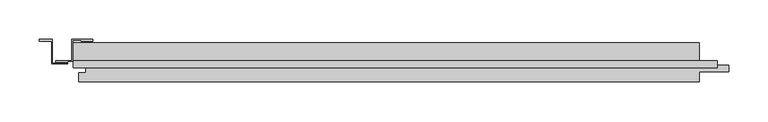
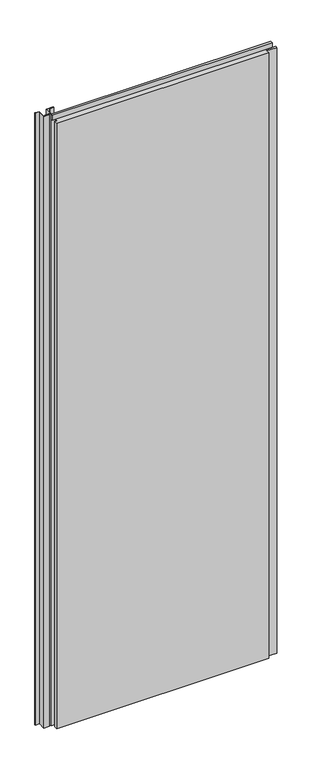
"""IFC4 building model written with IfcOpenShell, lengths in millimetres: plate geometry, Trimo_Qbiss Screen_Normal Panel-VERTICAL : HR - B."""

import ifcopenshell
import ifcopenshell.guid

model = None  # the IFC model being written
_history = None  # IfcOwnerHistory: only IFC2X3 demands one
_inside = {}  # id of a spatial element -> (the spatial element, [elements in it])
_under = {}  # id of a project, library or spatial element -> (it, [spatial elements below it])
_declared = {}  # id of a project -> (the project, [libraries it declares])
_typed = {}  # id of a type object -> (the type object, [elements of that type])
_made_of = {}  # id of a material, layer set ... -> (it, [elements and type objects made of it])


def new_model(schema):
    """Start an empty IFC model of exactly this schema.

    Asked for "IFC4X3", IfcOpenShell would pick the latest addendum, in which some entities
    have other attributes; the version numbers below select the first issue.
    IFC2X3 requires an IfcOwnerHistory on every rooted entity: one is made here for all.
    """
    global model, _history
    if schema == "IFC4X3":
        model = ifcopenshell.file(schema_version=(4, 3, 0, 0))
    else:
        model = ifcopenshell.file(schema=schema)
    _inside.clear()
    _under.clear()
    _declared.clear()
    _typed.clear()
    _made_of.clear()
    _history = None
    if model.schema == "IFC2X3":
        org = make("IfcOrganization", Name="unknown")
        user = make(
            "IfcPersonAndOrganization",
            ThePerson=make("IfcPerson", FamilyName="unknown"),
            TheOrganization=org,
        )
        app = make(
            "IfcApplication",
            ApplicationDeveloper=org,
            Version="unknown",
            ApplicationFullName="unknown",
            ApplicationIdentifier="unknown",
        )
        _history = make(
            "IfcOwnerHistory",
            OwningUser=user,
            OwningApplication=app,
            ChangeAction="ADDED",
            CreationDate=0,
        )
    return model


def make(cls, **values):
    """One entity of the class cls with the attributes given. An attribute that is None is left unset."""
    return model.create_entity(
        cls, **{name: value for name, value in values.items() if value is not None}
    )


def rooted(cls, **values):
    """An entity with a GlobalId (a new one), such as an element, a storey or a relation."""
    return make(cls, GlobalId=ifcopenshell.guid.new(), OwnerHistory=_history, **values)


def si_unit(unit_type, name, prefix=None):
    """IfcSIUnit, for example si_unit("LENGTHUNIT", "METRE", prefix="MILLI")."""
    return make("IfcSIUnit", UnitType=unit_type, Prefix=prefix, Name=name)


def assignment(units):
    """IfcUnitAssignment: the units of a project."""
    return None if units is None else make("IfcUnitAssignment", Units=units)


def point(xyz):
    """IfcCartesianPoint."""
    return None if xyz is None else make("IfcCartesianPoint", Coordinates=xyz)


def direction(xyz):
    """IfcDirection."""
    return None if xyz is None else make("IfcDirection", DirectionRatios=xyz)


def frame(location, z_axis=None, x_axis=None):
    """IfcAxis2Placement3D, a coordinate frame: its origin and axes. An axis left out is left unset."""
    return make(
        "IfcAxis2Placement3D",
        Location=point(location),
        Axis=direction(z_axis),
        RefDirection=direction(x_axis),
    )


def origin():
    """The frame at (0, 0, 0) with its axes left unset."""
    return frame((0.0, 0.0, 0.0))


def place(relative_to, where):
    """IfcLocalPlacement: puts the frame where relative to a parent placement (None: the world)."""
    return make(
        "IfcLocalPlacement", PlacementRelTo=relative_to, RelativePlacement=where
    )


def context(
    kind, dimensions, precision=None, world=None, true_north=None, identifier=None
):
    """IfcGeometricRepresentationContext, for example the 3D "Model" context."""
    return make(
        "IfcGeometricRepresentationContext",
        ContextIdentifier=identifier,
        ContextType=kind,
        CoordinateSpaceDimension=dimensions,
        Precision=precision,
        WorldCoordinateSystem=world,
        TrueNorth=true_north,
    )


def project(units=None, contexts=None):
    """IfcProject with its units and contexts."""
    return rooted(
        "IfcProject",
        Name="project",
        RepresentationContexts=contexts,
        UnitsInContext=assignment(units),
    )


def spatial(cls, under=None, at=None, **own):
    """A site, building, storey or space (cls), placed at a placement, below another one or the project."""
    s = rooted(cls, ObjectPlacement=at, **own)
    if under is not None:
        _under.setdefault(under.id(), (under, []))[1].append(s)
    return s


def polyline(points):
    """IfcPolyline through the points."""
    return make("IfcPolyline", Points=[point(p) for p in points])


def outline(outer, holes=None, kind="AREA"):
    """IfcArbitraryClosedProfileDef: a profile drawn as a closed curve; with holes, ...WithVoids."""
    if holes is None:
        return make("IfcArbitraryClosedProfileDef", ProfileType=kind, OuterCurve=outer)
    return make(
        "IfcArbitraryProfileDefWithVoids",
        ProfileType=kind,
        OuterCurve=outer,
        InnerCurves=holes,
    )


def extrude(swept, where, along, depth):
    """IfcExtrudedAreaSolid: the profile swept, set in the frame where, extruded along a direction by depth."""
    return make(
        "IfcExtrudedAreaSolid",
        SweptArea=swept,
        Position=where,
        ExtrudedDirection=direction(along),
        Depth=depth,
    )


def shape(context_of_items, identifier, shape_type, items):
    """IfcShapeRepresentation: the items that make up one representation, for example the "Body"."""
    return make(
        "IfcShapeRepresentation",
        ContextOfItems=context_of_items,
        RepresentationIdentifier=identifier,
        RepresentationType=shape_type,
        Items=items,
    )


def source(mapping_origin, context_of_items, identifier, shape_type, items):
    """IfcRepresentationMap: a shape defined once, which mapped items show again and again."""
    return make(
        "IfcRepresentationMap",
        MappingOrigin=mapping_origin,
        MappedRepresentation=shape(context_of_items, identifier, shape_type, items),
    )


def transform(
    local_origin,
    x_axis=None,
    y_axis=None,
    z_axis=None,
    scale=None,
    scale2=None,
    scale3=None,
    uniform=True,
):
    """IfcCartesianTransformationOperator3D, or its non-uniform kind. x_axis, y_axis, z_axis: its Axis1, 2, 3."""
    if uniform:
        return make(
            "IfcCartesianTransformationOperator3D",
            Axis1=direction(x_axis),
            Axis2=direction(y_axis),
            LocalOrigin=point(local_origin),
            Scale=scale,
            Axis3=direction(z_axis),
        )
    return make(
        "IfcCartesianTransformationOperator3DnonUniform",
        Axis1=direction(x_axis),
        Axis2=direction(y_axis),
        LocalOrigin=point(local_origin),
        Scale=scale,
        Axis3=direction(z_axis),
        Scale2=scale2,
        Scale3=scale3,
    )


def mapped(mapping_source, mapping_target):
    """IfcMappedItem: shows the shape of a source again, moved by a transform."""
    return make(
        "IfcMappedItem", MappingSource=mapping_source, MappingTarget=mapping_target
    )


def made_of(thing, what):
    """Note that an element or type object is made of a material, layer set ...; save() writes the relation."""
    if what is not None:
        _made_of.setdefault(what.id(), (what, []))[1].append(thing)
    return thing


def element(
    cls,
    number,
    at=None,
    inside=None,
    cuts=None,
    type_object=None,
    material=None,
    context=None,
    identifier="Body",
    shape_type=None,
    held_by="IfcProductDefinitionShape",
    body=None,
    shapes=None,
    **own,
):
    """One element of the class cls, such as IfcWall. Its Tag is "e" and its number.

    at: its placement. inside: the storey or other place that contains it. cuts: it is an
    opening in that element (IfcRelVoidsElement). A single representation is given by context,
    identifier, shape_type and body (its items); several are given by shapes. held_by: the class
    of the entity that holds the representations. save() writes the other relations.
    """
    e = rooted(cls, Tag="e%d" % number, ObjectPlacement=at, **own)
    if body is not None:
        shapes = [shape(context, identifier, shape_type, body)]
    if shapes is not None:
        e.Representation = make(held_by, Representations=shapes)
    if inside is not None:
        _inside.setdefault(inside.id(), (inside, []))[1].append(e)
    if cuts is not None:
        rooted(
            "IfcRelVoidsElement", RelatingBuildingElement=cuts, RelatedOpeningElement=e
        )
    if type_object is not None:
        _typed.setdefault(type_object.id(), (type_object, []))[1].append(e)
    return made_of(e, material)


def aggregate(whole, parts):
    """IfcRelAggregates: a whole, such as a stair, and the parts it consists of."""
    return rooted("IfcRelAggregates", RelatingObject=whole, RelatedObjects=parts)


def save(model, path):
    """Write the relations noted so far, then the file.

    IfcRelAggregates (storeys below a building ...), IfcRelContainedInSpatialStructure (elements
    in a storey), IfcRelDefinesByType, IfcRelAssociatesMaterial and IfcRelDeclares: one each for
    every whole, place, type object, material and project.
    """
    for whole, parts in _under.values():
        aggregate(whole, parts)
    for where, things in _inside.values():
        rooted(
            "IfcRelContainedInSpatialStructure",
            RelatedElements=things,
            RelatingStructure=where,
        )
    for kind, things in _typed.values():
        rooted("IfcRelDefinesByType", RelatedObjects=things, RelatingType=kind)
    for what, things in _made_of.values():
        rooted("IfcRelAssociatesMaterial", RelatedObjects=things, RelatingMaterial=what)
    for by, libraries in _declared.values():
        rooted("IfcRelDeclares", RelatingContext=by, RelatedDefinitions=libraries)
    model.write(path)


def plate_37e1ff53(model_context):
    return source(origin(), model_context, "Body", "SweptSolid", [
        extrude(outline(polyline([(-361.0, 127.6), (-376.0, 127.6), (-376.0, 128.4), (-361.8, 128.4), (-361.8, 129.2), (-387.0, 129.2), (-387.0, 102.4), (-407.2, 102.4), (-407.2, 101.6), (-393.0, 101.6), (-393.0, 100.8), (-408.0, 100.8), (-408.0, 103.2), (-387.8, 103.2), (-387.8, 130.0), (-361.0, 130.0), (-361.0, 127.6)])), frame((0.0, 0.0, 12.5), z_axis=(0.0, 0.0, 1.0), x_axis=(1.0, 0.0, 0.0)), (0.0, 0.0, 1.0), 2400.0),
        extrude(outline(polyline([(-393.0, 100.0), (-393.0, 99.2), (-413.6, 99.2), (-413.6, 129.2), (-428.2, 129.2), (-428.2, 128.4), (-414.0, 128.4), (-414.0, 127.6), (-429.0, 127.6), (-429.0, 130.0), (-412.8, 130.0), (-412.8, 100.0), (-393.0, 100.0)])), frame((0.0, 0.0, 12.5), z_axis=(0.0, 0.0, 1.0), x_axis=(1.0, 0.0, 0.0)), (0.0, 0.0, 1.0), 2400.0),
        extrude(outline(polyline([(409.0, 97.0), (409.0, 102.6), (430.0, 102.6), (430.0, 97.0), (409.0, 97.0)])), frame((0.0, 0.0, 12.5), z_axis=(0.0, 0.0, 1.0), x_axis=(1.0, 0.0, 0.0)), (0.0, 0.0, 1.0), 2375.0),
        extrude(outline(polyline([(-386.0, 93.9), (-386.0, 102.6), (431.0, 102.6), (431.0, 93.9), (-386.0, 93.9)])), frame((0.0, 0.0, 2390.5), z_axis=(0.0, 0.0, 1.0), x_axis=(1.0, 0.0, 0.0)), (0.0, 0.0, 1.0), 19.0),
        extrude(outline(polyline([(408.0, 97.0), (445.5, 97.0), (445.5, 89.0), (408.0, 89.0), (408.0, 76.0), (-379.0, 76.0), (-379.0, 88.0), (-370.5, 88.0), (-370.5, 98.0), (-386.0, 98.0), (-386.0, 126.0), (408.0, 126.0), (408.0, 97.0)])), frame((0.0, 0.0, 12.5), z_axis=(0.0, 0.0, 1.0), x_axis=(1.0, 0.0, 0.0)), (0.0, 0.0, 1.0), 2375.0),
    ])


if __name__ == "__main__":
    model = new_model("IFC4")
    model_context = context("Model", 3, world=origin())
    ifc_project = project(units=[si_unit("LENGTHUNIT", "METRE", prefix="MILLI")], contexts=[model_context])
    site = spatial("IfcSite", under=ifc_project)
    building = spatial("IfcBuilding", under=site)
    placement = place(None, origin())
    plate_shape = plate_37e1ff53(model_context)
    element("IfcPlate", 1, ObjectType="Trimo_Qbiss Screen_Normal Panel-VERTICAL : HR - B", at=placement, inside=building, context=model_context, shape_type="MappedRepresentation", body=[
        mapped(plate_shape, transform((0.0, 0.0, 0.0), x_axis=(1.0, 0.0, 0.0), y_axis=(0.0, 1.0, 0.0), z_axis=(0.0, 0.0, 1.0))),
    ])
    save(model, "model.ifc")
